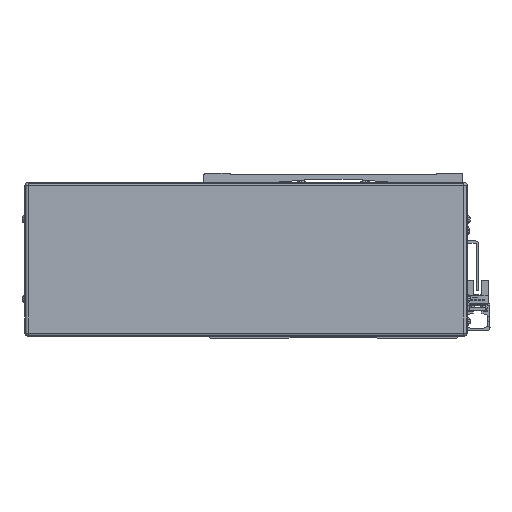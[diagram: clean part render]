
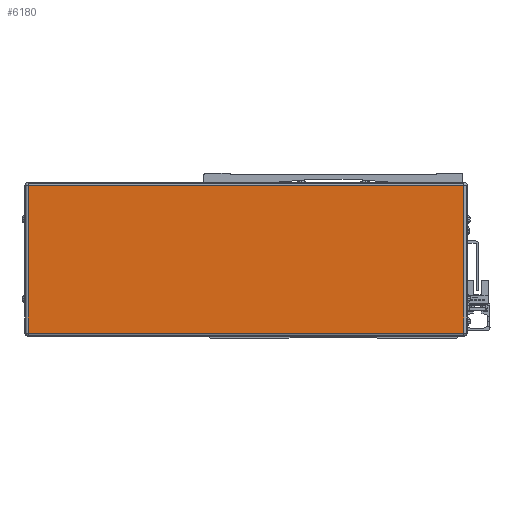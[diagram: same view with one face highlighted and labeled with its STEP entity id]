
A CAD part, front view. The second image highlights one B-rep face of the part: STEP entity #6180.
In plain terms, the highlighted planar face has unit normal (0, -1, 0).
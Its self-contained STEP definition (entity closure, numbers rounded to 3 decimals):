
#6180=ADVANCED_FACE('',(#13548),#13549,.F.);
#13548=FACE_OUTER_BOUND('',#23561,.T.);
#13549=PLANE('',#23562);
#23561=EDGE_LOOP('',(#42493,#42494,#42495,#42496));
#23562=AXIS2_PLACEMENT_3D('',#42497,#42498,#42499);
#42493=ORIENTED_EDGE('',*,*,#56204,.T.);
#42494=ORIENTED_EDGE('',*,*,#61202,.T.);
#42495=ORIENTED_EDGE('',*,*,#56754,.T.);
#42496=ORIENTED_EDGE('',*,*,#61203,.T.);
#42497=CARTESIAN_POINT('',(-655.,-522.778,-2.));
#42498=DIRECTION('',(0.,1.0,0.));
#42499=DIRECTION('',(-1.0,0.,0.));
#56204=EDGE_CURVE('',#67938,#67936,#67939,.T.);
#56754=EDGE_CURVE('',#68851,#68849,#68852,.T.);
#61202=EDGE_CURVE('',#67936,#68851,#75484,.T.);
#61203=EDGE_CURVE('',#68849,#67938,#75485,.T.);
#67936=VERTEX_POINT('',#84837);
#67938=VERTEX_POINT('',#84839);
#67939=LINE('',#84840,#84841);
#68849=VERTEX_POINT('',#86137);
#68851=VERTEX_POINT('',#86139);
#68852=LINE('',#86140,#86141);
#75484=LINE('',#96256,#96257);
#75485=LINE('',#96258,#96259);
#84837=CARTESIAN_POINT('',(-792.1,-522.778,44.5));
#84839=CARTESIAN_POINT('',(-517.9,-522.778,44.5));
#84840=CARTESIAN_POINT('',(-655.,-522.778,44.5));
#84841=VECTOR('',#103549,10.0);
#86137=CARTESIAN_POINT('',(-517.9,-522.778,-48.5));
#86139=CARTESIAN_POINT('',(-792.1,-522.778,-48.5));
#86140=CARTESIAN_POINT('',(-655.,-522.778,-48.5));
#86141=VECTOR('',#104240,10.0);
#96256=CARTESIAN_POINT('',(-792.1,-522.778,-2.));
#96257=VECTOR('',#109888,10.0);
#96258=CARTESIAN_POINT('',(-517.9,-522.778,-2.));
#96259=VECTOR('',#109889,10.0);
#103549=DIRECTION('',(-1.0,0.,0.));
#104240=DIRECTION('',(1.0,0.,0.));
#109888=DIRECTION('',(0.,0.,-1.0));
#109889=DIRECTION('',(0.,0.,1.0));
